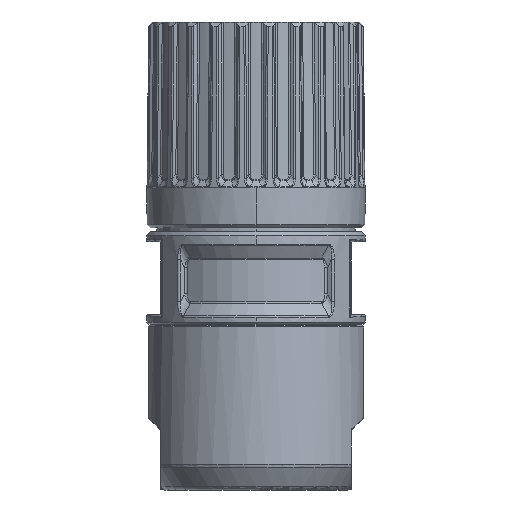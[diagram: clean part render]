
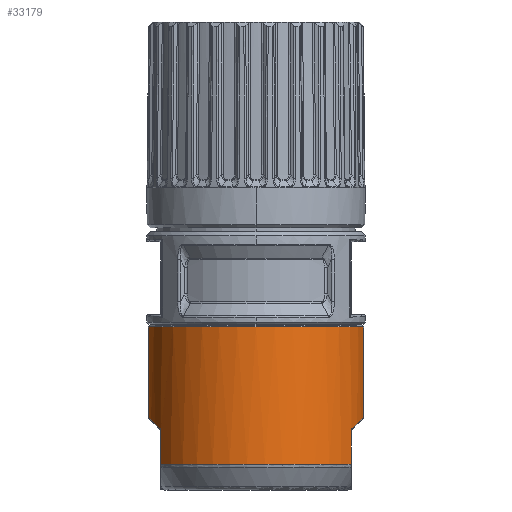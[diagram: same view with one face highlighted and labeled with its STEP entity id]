
A CAD part, front view. The second image highlights one B-rep face of the part: STEP entity #33179.
In plain terms, the highlighted cylindrical face has radius 13.7 mm (diameter 27.4 mm), a partial arc.
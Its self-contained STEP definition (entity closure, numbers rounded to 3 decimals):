
#881=CARTESIAN_POINT('',(0.,0.,-31.5));
#882=DIRECTION('',(0.,0.,-1.));
#883=DIRECTION('',(0.981,-0.192,0.));
#884=AXIS2_PLACEMENT_3D('',#881,#882,#883);
#886=DIRECTION('',(0.,0.,1.));
#887=VECTOR('',#886,11.319);
#888=CARTESIAN_POINT('',(13.444,-2.636,-42.819));
#889=LINE('',#888,#887);
#890=CARTESIAN_POINT('',(12.043,-6.531,-44.2));
#891=CARTESIAN_POINT('',(12.217,-6.21,-44.028));
#892=CARTESIAN_POINT('',(12.536,-5.561,-43.715));
#893=CARTESIAN_POINT('',(12.923,-4.586,-43.332));
#894=CARTESIAN_POINT('',(13.229,-3.61,-43.032));
#895=CARTESIAN_POINT('',(13.381,-2.96,-42.882));
#896=CARTESIAN_POINT('',(13.444,-2.636,-42.819));
#898=CARTESIAN_POINT('',(11.924,-6.746,-44.483));
#899=CARTESIAN_POINT('',(11.924,-6.746,-44.467));
#900=CARTESIAN_POINT('',(11.926,-6.743,-44.435));
#901=CARTESIAN_POINT('',(11.935,-6.726,-44.385));
#902=CARTESIAN_POINT('',(11.952,-6.696,-44.334));
#903=CARTESIAN_POINT('',(11.976,-6.654,-44.285));
#904=CARTESIAN_POINT('',(12.006,-6.599,-44.24));
#905=CARTESIAN_POINT('',(12.03,-6.555,-44.213));
#906=CARTESIAN_POINT('',(12.043,-6.531,-44.2));
#908=DIRECTION('',(0.,0.,1.));
#909=VECTOR('',#908,4.203);
#910=CARTESIAN_POINT('',(11.924,-6.746,-48.686));
#911=LINE('',#910,#909);
#912=CARTESIAN_POINT('',(0.,0.,-48.686));
#913=DIRECTION('',(0.,0.,-1.));
#914=DIRECTION('',(0.87,-0.492,0.));
#915=AXIS2_PLACEMENT_3D('',#912,#913,#914);
#917=DIRECTION('',(0.,0.,-1.));
#918=VECTOR('',#917,4.203);
#919=CARTESIAN_POINT('',(-11.924,-6.746,
-44.483));
#920=LINE('',#919,#918);
#921=CARTESIAN_POINT('',(-12.043,-6.531,
-44.2));
#922=CARTESIAN_POINT('',(-12.03,-6.555,
-44.213));
#923=CARTESIAN_POINT('',(-12.007,-6.597,
-44.239));
#924=CARTESIAN_POINT('',(-11.976,-6.653,
-44.285));
#925=CARTESIAN_POINT('',(-11.952,-6.696,
-44.333));
#926=CARTESIAN_POINT('',(-11.935,-6.726,
-44.384));
#927=CARTESIAN_POINT('',(-11.926,-6.743,
-44.435));
#928=CARTESIAN_POINT('',(-11.924,-6.746,
-44.467));
#929=CARTESIAN_POINT('',(-11.924,-6.746,
-44.483));
#931=CARTESIAN_POINT('',(-13.444,-2.636,
-42.819));
#932=CARTESIAN_POINT('',(-13.38,-2.96,
-42.882));
#933=CARTESIAN_POINT('',(-13.229,-3.61,
-43.032));
#934=CARTESIAN_POINT('',(-12.923,-4.587,
-43.333));
#935=CARTESIAN_POINT('',(-12.536,-5.562,
-43.715));
#936=CARTESIAN_POINT('',(-12.217,-6.21,
-44.028));
#937=CARTESIAN_POINT('',(-12.043,-6.531,
-44.2));
#939=DIRECTION('',(0.,0.,-1.));
#940=VECTOR('',#939,11.319);
#941=CARTESIAN_POINT('',(-13.444,-2.636,
-31.5));
#942=LINE('',#941,#940);
#1094=CARTESIAN_POINT('',(-11.924,-6.746,
-48.686));
#28064=CARTESIAN_POINT('',(11.924,-6.746,
-48.686));
#28065=CARTESIAN_POINT('',(11.924,-6.746,
-44.483));
#28066=VERTEX_POINT('',#28064);
#28067=VERTEX_POINT('',#28065);
#28086=VERTEX_POINT('',#890);
#28087=VERTEX_POINT('',#896);
#28092=VERTEX_POINT('',#1094);
#28114=CARTESIAN_POINT('',(-11.924,-6.746,
-44.483));
#28115=VERTEX_POINT('',#28114);
#28119=VERTEX_POINT('',#931);
#28120=VERTEX_POINT('',#937);
#28146=CARTESIAN_POINT('',(13.444,-2.636,-31.5));
#28147=VERTEX_POINT('',#28146);
#28150=CARTESIAN_POINT('',(-13.444,-2.636,-31.5));
#28151=VERTEX_POINT('',#28150);
#33153=CARTESIAN_POINT('',(0.,0.,-30.27));
#33154=DIRECTION('',(0.,0.,-1.));
#33155=DIRECTION('',(0.,-1.,0.));
#33156=AXIS2_PLACEMENT_3D('',#33153,#33154,#33155);
#33157=CYLINDRICAL_SURFACE('',#33156,13.7);
#33159=ORIENTED_EDGE('',*,*,#33158,.F.);
#33161=ORIENTED_EDGE('',*,*,#33160,.F.);
#33163=ORIENTED_EDGE('',*,*,#33162,.F.);
#33165=ORIENTED_EDGE('',*,*,#33164,.F.);
#33167=ORIENTED_EDGE('',*,*,#33166,.F.);
#33169=ORIENTED_EDGE('',*,*,#33168,.T.);
#33171=ORIENTED_EDGE('',*,*,#33170,.F.);
#33173=ORIENTED_EDGE('',*,*,#33172,.F.);
#33175=ORIENTED_EDGE('',*,*,#33174,.F.);
#33176=ORIENTED_EDGE('',*,*,#33145,.F.);
#33177=EDGE_LOOP('',(#33159,#33161,#33163,#33165,#33167,#33169,#33171,#33173,
#33175,#33176));
#33178=FACE_OUTER_BOUND('',#33177,.F.);
#885=CIRCLE('',#884,13.7);
#897=B_SPLINE_CURVE_WITH_KNOTS('',3,(#890,#891,#892,#893,#894,#895,#896),
.UNSPECIFIED.,.F.,.F.,(4,1,1,1,4),(0.,0.25,0.5,0.75,1.),
.UNSPECIFIED.);
#907=B_SPLINE_CURVE_WITH_KNOTS('',3,(#898,#899,#900,#901,#902,#903,#904,#905,
#906),.UNSPECIFIED.,.F.,.F.,(4,1,1,1,1,1,4),(0.,0.167,
0.333,0.5,0.667,0.833,1.),
.UNSPECIFIED.);
#916=CIRCLE('',#915,13.7);
#930=B_SPLINE_CURVE_WITH_KNOTS('',3,(#921,#922,#923,#924,#925,#926,#927,#928,
#929),.UNSPECIFIED.,.F.,.F.,(4,1,1,1,1,1,4),(0.,0.167,
0.333,0.5,0.667,0.833,1.),
.UNSPECIFIED.);
#938=B_SPLINE_CURVE_WITH_KNOTS('',3,(#931,#932,#933,#934,#935,#936,#937),
.UNSPECIFIED.,.F.,.F.,(4,1,1,1,4),(0.,0.25,0.5,0.75,1.),
.UNSPECIFIED.);
#33145=EDGE_CURVE('',#28151,#28119,#942,.T.);
#33158=EDGE_CURVE('',#28147,#28151,#885,.T.);
#33160=EDGE_CURVE('',#28087,#28147,#889,.T.);
#33162=EDGE_CURVE('',#28086,#28087,#897,.T.);
#33164=EDGE_CURVE('',#28067,#28086,#907,.T.);
#33166=EDGE_CURVE('',#28066,#28067,#911,.T.);
#33168=EDGE_CURVE('',#28066,#28092,#916,.T.);
#33170=EDGE_CURVE('',#28115,#28092,#920,.T.);
#33172=EDGE_CURVE('',#28120,#28115,#930,.T.);
#33174=EDGE_CURVE('',#28119,#28120,#938,.T.);
#33179=ADVANCED_FACE('',(#33178),#33157,.T.);
